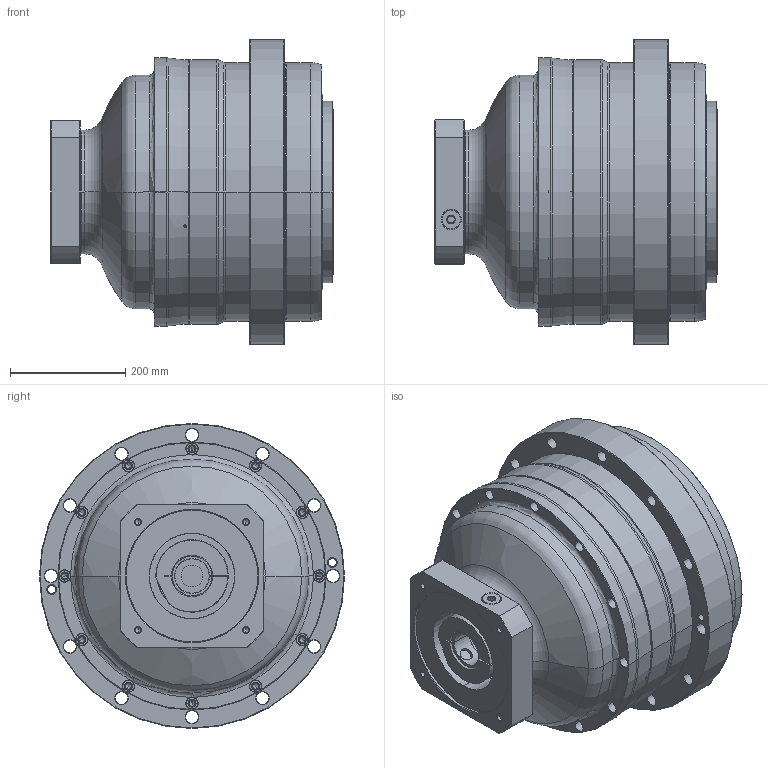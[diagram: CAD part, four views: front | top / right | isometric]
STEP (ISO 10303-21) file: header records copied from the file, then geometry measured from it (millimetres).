
FILE_DESCRIPTION((''),'2;1');
FILE_NAME('AH450_2ST_60-P0409D50101_ASM','2016-08-03T',('d01943'),(''),'PRO/ENGINEER BY PARAMETRIC TECHNOLOGY CORPORATION, 2008410','PRO/ENGINEER BY PARAMETRIC TECHNOLOGY CORPORATION, 2008410','');
FILE_SCHEMA(('CONFIG_CONTROL_DESIGN'));
Length unit declared in the file: millimetre
Products named in the file (8): P0276200003; P0357200003; P1339200301; P0409D50101; P0503D00016; P0962205001; 21711426021; AH450_2ST_60-P0409D50101_ASM
Assembly tree (7 placements, depth 2):
  AH450_2ST_60-P0409D50101_ASM
    P0276200003
    P0357200003
    P1339200301
    P0409D50101
    P0503D00016
    P0962205001
    21711426021
Bounding box: 491 x 530 x 530 mm (x, y, z)
Volume: 54159016.6 mm3; surface area: 2088654.5 mm2
Topology: 8 solids, 8 shells, 822 faces, 1867 edges, 1078 vertices
Faces by surface type: cylinder 296, cone 282, torus 112, plane 104, bspline 28
Entity records: 27935 total; most frequent: CARTESIAN_POINT 8997, DIRECTION 4333, ORIENTED_EDGE 3630, AXIS2_PLACEMENT_3D 1838, EDGE_CURVE 1815, VERTEX_POINT 1078, CIRCLE 1029, EDGE_LOOP 983
